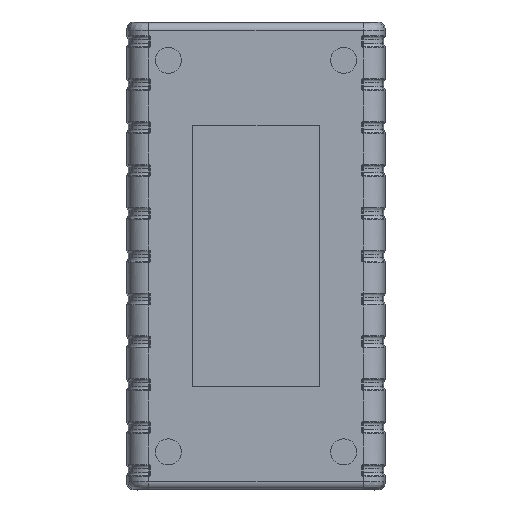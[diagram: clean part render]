
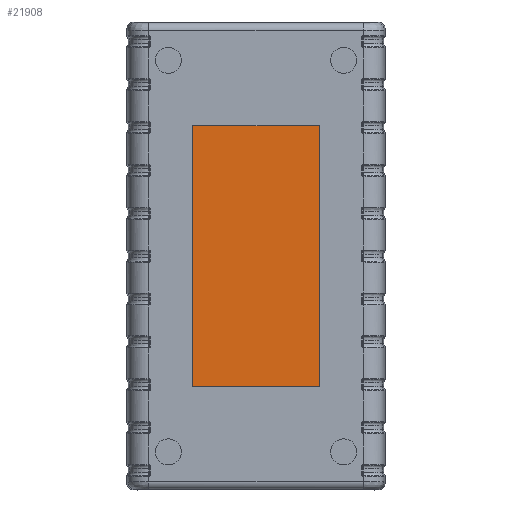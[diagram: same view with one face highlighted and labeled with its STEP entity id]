
A CAD part, front view. The second image highlights one B-rep face of the part: STEP entity #21908.
In plain terms, the highlighted planar face has unit normal (0, -1, 0).
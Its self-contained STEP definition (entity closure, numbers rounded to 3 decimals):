
#10986 = VERTEX_POINT ( 'NONE', #155447 ) ;
#21908 = ADVANCED_FACE ( 'NONE', ( #189905 ), #71337, .F. ) ;
#24079 = ORIENTED_EDGE ( 'NONE', *, *, #27203, .T. ) ;
#27203 = EDGE_CURVE ( 'NONE', #10986, #119562, #185328, .T. ) ;
#28638 = LINE ( 'NONE', #120471, #41870 ) ;
#35492 = VERTEX_POINT ( 'NONE', #75104 ) ;
#41870 = VECTOR ( 'NONE', #43450, 1000. ) ;
#43096 = EDGE_CURVE ( 'NONE', #119562, #35492, #88094, .T. ) ;
#43450 = DIRECTION ( 'NONE',  ( 0., 0., -1. ) ) ;
#45770 = ORIENTED_EDGE ( 'NONE', *, *, #43096, .T. ) ;
#46183 = EDGE_CURVE ( 'NONE', #59413, #10986, #57199, .T. ) ;
#47343 = CARTESIAN_POINT ( 'NONE',  ( -51.681, 0.4, 25.849 ) ) ;
#50035 = DIRECTION ( 'NONE',  ( 0., 0., 1. ) ) ;
#51012 = CARTESIAN_POINT ( 'NONE',  ( -17.681, 0.4, 60.85 ) ) ;
#51211 = CARTESIAN_POINT ( 'NONE',  ( -17.681, 0.4, 25.849 ) ) ;
#57199 = B_SPLINE_CURVE_WITH_KNOTS ( 'NONE', 3,
 ( #47343, #153900, #77855, #51211 ),
 .UNSPECIFIED., .F., .F.,
 ( 4, 4 ),
 ( 0., 1. ),
 .UNSPECIFIED. ) ;
#58769 = VECTOR ( 'NONE', #50035, 1000. ) ;
#59413 = VERTEX_POINT ( 'NONE', #193345 ) ;
#68997 = CARTESIAN_POINT ( 'NONE',  ( -40.348, 0.4, 95.851 ) ) ;
#71337 = PLANE ( 'NONE',  #113579 ) ;
#71426 = ORIENTED_EDGE ( 'NONE', *, *, #46183, .T. ) ;
#75104 = CARTESIAN_POINT ( 'NONE',  ( -51.681, 0.4, 95.851 ) ) ;
#77855 = CARTESIAN_POINT ( 'NONE',  ( -29.015, 0.4, 25.849 ) ) ;
#84205 = ORIENTED_EDGE ( 'NONE', *, *, #133718, .T. ) ;
#88094 = B_SPLINE_CURVE_WITH_KNOTS ( 'NONE', 3,
 ( #173734, #130246, #68997, #141112 ),
 .UNSPECIFIED., .F., .F.,
 ( 4, 4 ),
 ( 0., 1. ),
 .UNSPECIFIED. ) ;
#104954 = DIRECTION ( 'NONE',  ( 1., 0., 0. ) ) ;
#113579 = AXIS2_PLACEMENT_3D ( 'NONE', #163190, #147326, #104954 ) ;
#119562 = VERTEX_POINT ( 'NONE', #134350 ) ;
#120471 = CARTESIAN_POINT ( 'NONE',  ( -51.681, 0.4, 123.35 ) ) ;
#130246 = CARTESIAN_POINT ( 'NONE',  ( -29.015, 0.4, 95.851 ) ) ;
#133718 = EDGE_CURVE ( 'NONE', #35492, #59413, #28638, .T. ) ;
#134350 = CARTESIAN_POINT ( 'NONE',  ( -17.681, 0.4, 95.851 ) ) ;
#141112 = CARTESIAN_POINT ( 'NONE',  ( -51.681, 0.4, 95.851 ) ) ;
#147326 = DIRECTION ( 'NONE',  ( 0., 1., 0. ) ) ;
#153900 = CARTESIAN_POINT ( 'NONE',  ( -40.348, 0.4, 25.849 ) ) ;
#155447 = CARTESIAN_POINT ( 'NONE',  ( -17.681, 0.4, 25.849 ) ) ;
#163190 = CARTESIAN_POINT ( 'NONE',  ( -34.681, 0.4, 123.35 ) ) ;
#173734 = CARTESIAN_POINT ( 'NONE',  ( -17.681, 0.4, 95.851 ) ) ;
#178052 = EDGE_LOOP ( 'NONE', ( #84205, #71426, #24079, #45770 ) ) ;
#185328 = LINE ( 'NONE', #51012, #58769 ) ;
#189905 = FACE_OUTER_BOUND ( 'NONE', #178052, .T. ) ;
#193345 = CARTESIAN_POINT ( 'NONE',  ( -51.681, 0.4, 25.849 ) ) ;
